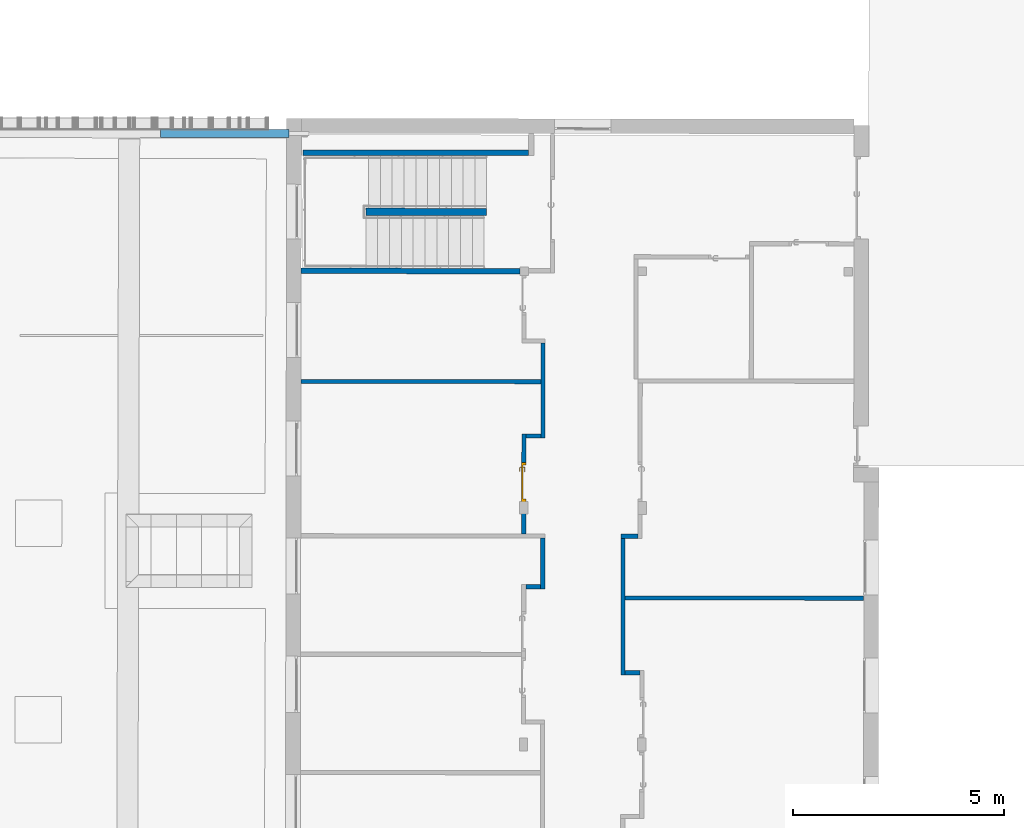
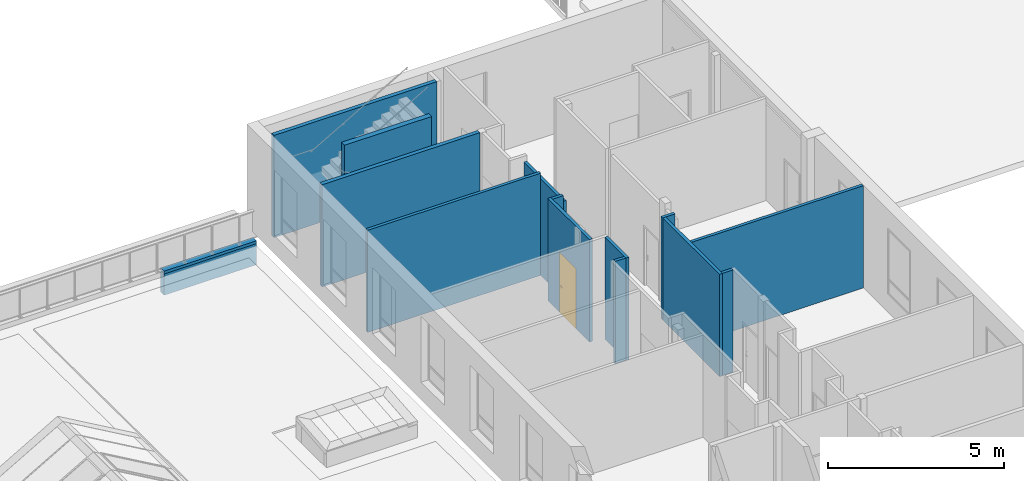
# One storey, part 85 of 101: 15 walls, 1 door, 1 opening.
"""IFC2X3 building model written with IfcOpenShell, lengths in metres."""

from ifc_helpers import new_model, entity, si_unit, converted_unit, derived_unit, direction, frame, frame_2d, origin, place, context, subcontext, project, spatial, polyline, rectangle, outline, extrude, clip, bounded_halfspace, faceted_brep, source, transform, mapped, material, material_list, layer, layer_set, layer_usage, type_object, type_shapes, element, fill, save


model = new_model("IFC2X3")

# Units and contexts
model_context = context("Model", 3, precision=1e-05, world=origin(), true_north=direction((6.123233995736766e-17, 1.0)))
body_context = subcontext(model_context, "Body", "Model", "MODEL_VIEW")
ifc_project = project(units=[si_unit("LENGTHUNIT", "METRE"), si_unit("AREAUNIT", "SQUARE_METRE"), converted_unit("PLANEANGLEUNIT", "DEGREE", entity("IfcPlaneAngleMeasure", 0.017453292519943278), si_unit("PLANEANGLEUNIT", "RADIAN"), dimensions=[0, 0, 0, 0, 0, 0, 0]), derived_unit("THERMALTRANSMITTANCEUNIT", [(si_unit("MASSUNIT", "GRAM", prefix="KILO"), 1), (si_unit("THERMODYNAMICTEMPERATUREUNIT", "KELVIN"), -1), (si_unit("TIMEUNIT", "SECOND"), -3)])], contexts=[model_context])

# Site, building, storey
site_placement = place(None, frame((1253.6752467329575, 2072.143113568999, 91.49999999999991), z_axis=(0.0, 0.0, 1.0), x_axis=(0.7237211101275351, 0.6900925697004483, 0.0)))
site = spatial("IfcSite", under=ifc_project, at=site_placement, Name="Surface", CompositionType="ELEMENT")
building_placement = place(site_placement, origin())
building = spatial("IfcBuilding", under=site, at=building_placement, CompositionType="ELEMENT")
storey_placement = place(building_placement, origin())
storey = spatial("IfcBuildingStorey", under=building, at=storey_placement, Name="0- Rdc", CompositionType="ELEMENT", Elevation=-5.764692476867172e-13)

# Walls
ifc_material_1 = material(Name="OMD_Béton blanc")
ifc_layer_1 = layer(ifc_material_1, 0.12999999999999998)
ifc_layer_set_1 = layer_set([ifc_layer_1], Name="Mur de base:MUR 13")
ifc_layer_usage_1 = layer_usage(ifc_layer_set_1, "AXIS2", "NEGATIVE", 0.06499999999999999)
wall_type_1 = type_object("IfcWallType", Name="Mur de base:MUR 13", PredefinedType="STANDARD", material=ifc_layer_set_1)
wall_1_placement = place(storey_placement, frame((195.20702705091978, -1.0797721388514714, 0.0), z_axis=(0.0, 0.0, 1.0), x_axis=(-0.7228702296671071, 0.6909838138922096, 0.0)))
element("IfcWallStandardCase", 1, at=wall_1_placement, inside=storey, type_object=wall_type_1, material=ifc_layer_usage_1, Name="Mur de base:MUR 13", ObjectType="Mur de base:MUR 13", context=body_context, shape_type="SweptSolid", body=[
    extrude(rectangle(XDim=5.340000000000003, YDim=0.1299999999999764, at=frame_2d((2.6700000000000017, -3.7470027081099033e-16), x_axis=(-1.0, 0.0))), origin(), (0.0, 0.0, 1.0), 3.5499999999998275),
])
ifc_layer_usage_2 = layer_usage(ifc_layer_set_1, "AXIS2", "NEGATIVE", 0.06499999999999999)
wall_2_placement = place(storey_placement, frame((193.12769832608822, -2.96561201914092, 0.0), z_axis=(0.0, 0.0, 1.0), x_axis=(-0.7228702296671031, 0.6909838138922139, 0.0)))
element("IfcWallStandardCase", 2, at=wall_2_placement, inside=storey, type_object=wall_type_1, material=ifc_layer_usage_2, Name="Mur de base:MUR 13", ObjectType="Mur de base:MUR 13", context=body_context, shape_type="SweptSolid", body=[
    extrude(outline(polyline([(-0.06374162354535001, -2.5871585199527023), (0.06625839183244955, -2.5871585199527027), (0.0637416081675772, 2.58719013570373), (-0.06625837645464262, 2.5871269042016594), (-0.06374162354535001, -2.5871585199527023)])), frame((2.587158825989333, 0.0, 0.0), z_axis=(0.0, 0.0, 1.0), x_axis=(0.00048639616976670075, 0.999999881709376, 0.0)), (0.0, 0.0, 1.0), 3.5499999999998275),
])
ifc_layer_2 = layer(ifc_material_1, 0.1)
ifc_layer_set_2 = layer_set([ifc_layer_2], Name="Mur de base:MUR 10")
ifc_layer_usage_3 = layer_usage(ifc_layer_set_2, "AXIS2", "NEGATIVE", 0.05)
wall_type_2 = type_object("IfcWallType", Name="Mur de base:MUR 10", PredefinedType="STANDARD", material=ifc_layer_set_2)
wall_3_placement = place(storey_placement, frame((192.35060446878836, -4.574532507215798, 0.0), z_axis=(0.0, 0.0, 1.0), x_axis=(-0.6909838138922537, -0.722870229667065, 0.0)))
element("IfcWallStandardCase", 3, at=wall_3_placement, inside=storey, type_object=wall_type_2, material=ifc_layer_usage_3, Name="Mur de base:MUR 10", ObjectType="Mur de base:MUR 10", context=body_context, shape_type="Clipping", body=[
    clip(extrude(rectangle(XDim=2.250000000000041, YDim=0.1000000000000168, at=frame_2d((1.1250000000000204, 1.0096090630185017e-15), x_axis=(-1.0, 0.0))), origin(), (0.0, 0.0, 1.0), 3.3499999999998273), bounded_halfspace(frame((0.0, -0.049999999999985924, 3.3499999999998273), z_axis=(0.0, 0.0, -1.0), x_axis=(1.0, 0.0, 0.0)), True, frame((0.0, -0.049999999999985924, 3.3499999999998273)), polyline([(0.0, 0.0), (2.2500000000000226, 0.0), (2.2500000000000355, 0.09999999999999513), (0.0, 0.09999999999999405), (0.0, 0.0)]))),
])
ifc_layer_usage_4 = layer_usage(ifc_layer_set_2, "AXIS2", "NEGATIVE", 0.05)
wall_4_placement = place(storey_placement, frame((187.57947844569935, -1.2796522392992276, 0.0), z_axis=(0.0, 0.0, 1.0), x_axis=(0.7228702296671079, -0.690983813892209, 0.0)))
element("IfcWallStandardCase", 4, at=wall_4_placement, inside=storey, type_object=wall_type_2, material=ifc_layer_usage_4, Name="Mur de base:MUR 10", ObjectType="Mur de base:MUR 10", context=body_context, shape_type="SweptSolid", body=[
    extrude(outline(polyline([(-0.04999999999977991, -2.8377947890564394), (0.0500000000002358, -2.83779478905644), (0.049999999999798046, 2.8377704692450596), (-0.050000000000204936, 2.8378191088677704), (-0.04999999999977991, -2.8377947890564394)])), frame((2.8378191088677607, 0.0, 0.0), z_axis=(0.0, 0.0, 1.0), x_axis=(0.0, 1.0, 0.0)), (0.0, 0.0, 1.0), 3.5499999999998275),
])
ifc_layer_usage_5 = layer_usage(ifc_layer_set_2, "AXIS2", "NEGATIVE", 0.05)
wall_5_placement = place(storey_placement, frame((190.79429656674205, -6.130297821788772, 0.0), z_axis=(0.0, 0.0, 1.0), x_axis=(-0.7228702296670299, 0.6909838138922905, 0.0)))
element("IfcWallStandardCase", 5, at=wall_5_placement, inside=storey, type_object=wall_type_2, material=ifc_layer_usage_5, Name="Mur de base:MUR 10", ObjectType="Mur de base:MUR 10", context=body_context, shape_type="SweptSolid", body=[
    extrude(rectangle(XDim=0.34999999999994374, YDim=0.10000000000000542, at=frame_2d((0.17499999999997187, -5.585809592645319e-16), x_axis=(-1.0, 0.0))), origin(), (0.0, 0.0, 1.0), 3.5499999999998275),
])

# Wall, opening, door
ifc_layer_usage_6 = layer_usage(ifc_layer_set_2, "AXIS2", "NEGATIVE", 0.05)
wall_6_placement = place(storey_placement, frame((190.5396976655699, -5.817760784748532, 0.0), z_axis=(0.0, 0.0, 1.0), x_axis=(-0.6909838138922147, -0.7228702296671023, 0.0)))
wall_6 = element("IfcWallStandardCase", 6, at=wall_6_placement, inside=storey, type_object=wall_type_2, material=ifc_layer_usage_6, Name="Mur de base:MUR 10", ObjectType="Mur de base:MUR 10", context=body_context, shape_type="SweptSolid", body=[
    extrude(rectangle(XDim=2.370000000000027, YDim=0.1000000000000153, at=frame_2d((1.1850000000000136, 2.1996293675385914e-15), x_axis=(-1.0, 0.0))), origin(), (0.0, 0.0, 1.0), 3.5499999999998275),
])
opening_placement = place(wall_6_placement, frame((1.6075000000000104, 0.05000000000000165, 0.0)))
opening = element("IfcOpeningElement", 7, at=opening_placement, cuts=wall_6, Name="OMD_Porte 1V tunnel:80x204:1", ObjectType="Opening", context=body_context, shape_type="SweptSolid", body=[
    extrude(rectangle(XDim=2.0850000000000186, YDim=0.9349999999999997, at=frame_2d((1.0425000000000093, 0.46749999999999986), x_axis=(1.0, 0.0))), frame((0.0, 0.0, 0.0), z_axis=(0.0, -1.0, 0.0), x_axis=(0.0, 0.0, 1.0)), (0.0, 0.0, 1.0), 0.09999999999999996),
])
ifc_material_2 = material(Name="Porte - Poignée")
ifc_material_3 = material(Name="OMD_Peinture mur")
ifc_material_4 = material(Name="OMD_Bois")
ifc_material_list = material_list([ifc_material_2, ifc_material_3, ifc_material_4])
door_style = type_object("IfcDoorStyle", Name="OMD_Porte 1V tunnel:80x204", ConstructionType="NOTDEFINED", OperationType="NOTDEFINED", ParameterTakesPrecedence=False, Sizeable=False, material=ifc_material_list)
shared_shape = source(origin(), body_context, "Body", "Brep", [
    faceted_brep([(0.21297470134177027, 0.03500000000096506, 1.0077804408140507), (0.20900000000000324, 0.03500000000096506, 1.0069999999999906), (0.208999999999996, 0.03500000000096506, 0.9929999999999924), (0.21297470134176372, 0.03500000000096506, 0.9922195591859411), (0.21702529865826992, 0.03500000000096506, 0.9922195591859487), (0.22100000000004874, 0.03500000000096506, 0.9930000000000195), (0.22100000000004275, 0.03500000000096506, 1.0069999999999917), (0.2170252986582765, 0.03500000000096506, 1.007780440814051), (0.22100000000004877, 0.05748520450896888, 0.9930000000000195), (0.22100000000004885, 0.057485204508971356, 1.0069999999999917), (0.21702529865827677, 0.059131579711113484, 1.007780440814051), (0.23083890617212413, 0.07294518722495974, 1.007780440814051), (0.2291610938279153, 0.07699578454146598, 1.0077804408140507), (0.21297470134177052, 0.060809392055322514, 1.0077804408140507), (0.3206847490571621, 0.0664673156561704, 1.0077804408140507), (0.32354895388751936, 0.06933152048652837, 1.0077804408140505), (0.31588468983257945, 0.07699578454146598, 1.0077804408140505), (0.31420687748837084, 0.07294518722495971, 1.0077804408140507), (0.20900000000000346, 0.06245576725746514, 1.0069999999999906), (0.20900000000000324, 0.06245576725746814, 0.9929999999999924), (0.21297470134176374, 0.06080939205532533, 0.9922195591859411), (0.22916109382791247, 0.07699578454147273, 0.9922195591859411), (0.23083890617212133, 0.07294518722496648, 0.9922195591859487), (0.21702529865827, 0.05913157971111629, 0.9922195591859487), (0.32354895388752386, 0.06933152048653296, 0.9922195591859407), (0.3206847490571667, 0.06646731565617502, 0.9922195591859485), (0.3142068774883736, 0.07294518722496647, 0.9922195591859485), (0.3158846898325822, 0.07699578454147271, 0.9922195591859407), (0.23248528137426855, 0.0689704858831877, 0.9930000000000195), (0.23248528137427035, 0.06897048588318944, 1.0069999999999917), (0.22751471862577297, 0.0809704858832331, 1.0069999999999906), (0.22751471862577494, 0.08097048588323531, 0.9929999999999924), (0.2725228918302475, 0.06897048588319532, 0.9930000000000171), (0.3125605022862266, 0.06897048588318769, 0.9930000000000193), (0.31256050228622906, 0.06897048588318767, 1.0069999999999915), (0.2725228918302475, 0.0689704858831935, 1.0069999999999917), (0.2725228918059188, 0.07512492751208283, 1.0078781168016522), (0.31753106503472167, 0.08097048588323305, 1.0069999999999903), (0.2776005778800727, 0.08097048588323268, 1.0069999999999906), (0.31753106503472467, 0.08097048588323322, 0.9929999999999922), (0.2674452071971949, 0.08097048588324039, 0.9929999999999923), (0.2725228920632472, 0.07512492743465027, 0.9921218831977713), (0.317874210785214, 0.06365677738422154, 0.9930000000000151), (0.32635949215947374, 0.07214205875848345, 0.99299999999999), (0.3263594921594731, 0.07214205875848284, 1.0069999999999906), (0.317874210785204, 0.06365677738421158, 1.0069999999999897)], [[[0, 1, 2, 3, 4, 5, 6, 7]], [[6, 5, 8, 9]], [[9, 10, 7, 6]], [[10, 11, 12, 13, 0, 7]], [[14, 15, 16, 17]], [[13, 18, 1, 0]], [[2, 1, 18, 19]], [[19, 20, 3, 2]], [[20, 21, 22, 23, 4, 3]], [[24, 25, 26, 27]], [[23, 8, 5, 4]], [[9, 8, 28, 29]], [[29, 11, 10, 9]], [[12, 30, 18, 13]], [[19, 18, 30, 31]], [[31, 21, 20, 19]], [[22, 28, 8, 23]], [[29, 28, 32, 33, 34, 35]], [[11, 35, 36]], [[16, 37, 38]], [[30, 12, 38]], [[38, 12, 36]], [[36, 35, 17]], [[17, 16, 36]], [[35, 11, 29]], [[34, 17, 35]], [[11, 36, 12]], [[38, 36, 16]], [[31, 30, 38, 37, 39, 40]], [[40, 41, 21]], [[41, 40, 27]], [[21, 31, 40]], [[39, 27, 40]], [[41, 32, 22]], [[22, 21, 41]], [[26, 32, 41]], [[28, 22, 32]], [[32, 26, 33]], [[26, 41, 27]], [[42, 25, 24, 43, 44, 15, 14, 45]], [[34, 33, 42, 45]], [[45, 14, 17, 34]], [[15, 44, 37, 16]], [[39, 37, 44, 43]], [[43, 24, 27, 39]], [[25, 42, 33, 26]]]),
    faceted_brep([(0.21297470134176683, -0.004999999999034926, 1.0077804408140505), (0.2170252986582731, -0.004999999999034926, 1.007780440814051), (0.2210000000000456, -0.004999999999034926, 1.006999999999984), (0.22100000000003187, -0.004999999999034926, 0.9930000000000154), (0.21702529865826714, -0.004999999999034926, 0.9922195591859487), (0.21297470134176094, -0.004999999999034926, 0.992219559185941), (0.20900000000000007, -0.004999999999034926, 0.992999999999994), (0.20900000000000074, -0.004999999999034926, 1.0069999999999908), (0.20900000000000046, -0.03265095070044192, 1.0069999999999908), (0.21297470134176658, -0.03100457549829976, 1.0077804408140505), (0.22902358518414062, -0.04705345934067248, 1.0077804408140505), (0.2307013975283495, -0.04300286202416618, 1.007780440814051), (0.21702529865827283, -0.02932676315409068, 1.007780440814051), (0.3235218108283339, -0.039389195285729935, 1.0077804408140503), (0.3206576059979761, -0.03652499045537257, 1.0077804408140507), (0.3141797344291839, -0.04300286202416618, 1.0077804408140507), (0.31585754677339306, -0.04705345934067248, 1.0077804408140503), (0.22100000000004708, -0.027680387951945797, 1.0069999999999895), (0.22100000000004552, -0.02768038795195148, 0.9930000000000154), (0.21702529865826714, -0.029326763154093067, 0.9922195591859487), (0.23070139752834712, -0.04300286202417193, 0.9922195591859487), (0.2290235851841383, -0.0470534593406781, 0.992219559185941), (0.21297470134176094, -0.031004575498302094, 0.992219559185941), (0.32065760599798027, -0.036524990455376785, 0.9922195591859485), (0.3235218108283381, -0.03938919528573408, 0.9922195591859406), (0.31585754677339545, -0.047053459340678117, 0.9922195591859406), (0.3141797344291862, -0.04300286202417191, 0.9922195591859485), (0.20899999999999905, -0.032650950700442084, 0.9929999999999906), (0.22737720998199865, -0.051028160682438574, 1.0069999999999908), (0.23234777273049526, -0.03902816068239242, 1.0069999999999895), (0.23234777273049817, -0.03902816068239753, 0.9930000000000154), (0.22737720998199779, -0.051028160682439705, 0.9929999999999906), (0.2673076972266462, -0.05102816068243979, 1.0069999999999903), (0.272440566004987, -0.0451828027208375, 1.0078781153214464), (0.3175039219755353, -0.05102816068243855, 1.0069999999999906), (0.27244056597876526, -0.039028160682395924, 1.0069999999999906), (0.3125333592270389, -0.03902816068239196, 1.0069999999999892), (0.31253335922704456, -0.03902816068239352, 0.9930000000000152), (0.27244056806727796, -0.03902816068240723, 0.9930000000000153), (0.27244056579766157, -0.04518280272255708, 0.9921218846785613), (0.3175039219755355, -0.051028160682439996, 0.9929999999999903), (0.27757344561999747, -0.051028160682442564, 0.9929999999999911), (0.3178470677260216, -0.03371445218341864, 1.0069999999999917), (0.3263323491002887, -0.04219973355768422, 1.0069999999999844), (0.3263323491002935, -0.04219973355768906, 0.9929999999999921), (0.31784706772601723, -0.033714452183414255, 0.9930000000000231)], [[[0, 1, 2, 3, 4, 5, 6, 7]], [[8, 9, 0, 7]], [[9, 10, 11, 12, 1, 0]], [[13, 14, 15, 16]], [[12, 17, 2, 1]], [[3, 2, 17, 18]], [[18, 19, 4, 3]], [[19, 20, 21, 22, 5, 4]], [[23, 24, 25, 26]], [[22, 27, 6, 5]], [[7, 6, 27, 8]], [[28, 10, 9, 8]], [[11, 29, 17, 12]], [[18, 17, 29, 30]], [[30, 20, 19, 18]], [[21, 31, 27, 22]], [[8, 27, 31, 28]], [[32, 33, 10]], [[33, 32, 16]], [[10, 28, 32]], [[34, 16, 32]], [[33, 35, 11]], [[11, 10, 33]], [[15, 35, 33]], [[29, 11, 35]], [[35, 15, 36]], [[15, 33, 16]], [[30, 29, 35, 36, 37, 38]], [[20, 38, 39]], [[25, 40, 41]], [[31, 21, 41]], [[41, 21, 39]], [[39, 38, 26]], [[26, 25, 39]], [[38, 20, 30]], [[37, 26, 38]], [[20, 39, 21]], [[41, 39, 25]], [[28, 31, 41, 40, 34, 32]], [[42, 14, 13, 43, 44, 24, 23, 45]], [[43, 13, 16, 34]], [[14, 42, 36, 15]], [[37, 36, 42, 45]], [[45, 23, 26, 37]], [[24, 44, 40, 25]], [[34, 40, 44, 43]]]),
    faceted_brep([(0.22535276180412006, 0.030000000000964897, 0.8660039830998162), (0.2350000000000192, 0.030000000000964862, 0.8700000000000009), (0.2350000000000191, 0.030000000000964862, 1.0800000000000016), (0.2253527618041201, 0.030000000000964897, 1.0839960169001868), (0.21500000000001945, 0.030000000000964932, 1.0853589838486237), (0.20464723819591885, 0.03000000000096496, 1.0839960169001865), (0.19500000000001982, 0.030000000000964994, 1.0800000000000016), (0.19500000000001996, 0.030000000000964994, 0.8700000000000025), (0.20464723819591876, 0.03000000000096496, 0.866003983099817), (0.21500000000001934, 0.030000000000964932, 0.8646410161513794), (0.22535276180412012, 0.0350000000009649, 1.0839960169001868), (0.2350000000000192, 0.03500000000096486, 1.0800000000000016), (0.23500000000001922, 0.03500000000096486, 0.8700000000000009), (0.22535276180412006, 0.0350000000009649, 0.8660039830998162), (0.21500000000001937, 0.03500000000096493, 0.8646410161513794), (0.20464723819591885, 0.03500000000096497, 0.866003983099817), (0.19500000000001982, 0.035000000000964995, 0.8700000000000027), (0.19500000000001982, 0.035000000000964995, 1.0800000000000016), (0.20464723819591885, 0.03500000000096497, 1.0839960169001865), (0.21500000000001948, 0.03500000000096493, 1.0853589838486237)], [[[0, 1, 2, 3, 4, 5, 6, 7, 8, 9]], [[10, 11, 12, 13, 14, 15, 16, 17, 18, 19]], [[11, 10, 3, 2]], [[3, 10, 19, 4]], [[19, 18, 5, 4]], [[18, 17, 6, 5]], [[7, 6, 17, 16]], [[16, 15, 8, 7]], [[8, 15, 14, 9]], [[14, 13, 0, 9]], [[13, 12, 1, 0]], [[2, 1, 12, 11]]]),
    faceted_brep([(0.22535276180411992, -0.004999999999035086, 0.8660039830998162), (0.2350000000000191, -0.004999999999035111, 0.8700000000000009), (0.23500000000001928, -0.004999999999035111, 1.0800000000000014), (0.22535276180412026, -0.004999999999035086, 1.0839960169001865), (0.2150000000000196, -0.004999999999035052, 1.0853589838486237), (0.20464723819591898, -0.0049999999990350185, 1.0839960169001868), (0.19500000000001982, -0.004999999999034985, 1.0800000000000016), (0.19500000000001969, -0.004999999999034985, 0.8700000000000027), (0.20464723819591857, -0.0049999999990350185, 0.8660039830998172), (0.21500000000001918, -0.004999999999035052, 0.8646410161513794), (0.22535276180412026, 0.0, 1.0839960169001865), (0.2350000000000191, 0.0, 1.0800000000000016), (0.2350000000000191, 0.0, 0.8700000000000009), (0.22535276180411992, 0.0, 0.8660039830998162), (0.21500000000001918, 0.0, 0.8646410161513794), (0.20464723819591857, 0.0, 0.8660039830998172), (0.19500000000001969, 0.0, 0.8700000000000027), (0.19500000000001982, 0.0, 1.0800000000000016), (0.20464723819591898, 0.0, 1.0839960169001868), (0.2150000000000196, 0.0, 1.0853589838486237)], [[[0, 1, 2, 3, 4, 5, 6, 7, 8, 9]], [[10, 11, 12, 13, 14, 15, 16, 17, 18, 19]], [[16, 15, 8, 7]], [[8, 15, 14, 9]], [[14, 13, 0, 9]], [[13, 12, 1, 0]], [[2, 1, 12, 11]], [[11, 10, 3, 2]], [[3, 10, 19, 4]], [[19, 18, 5, 4]], [[18, 17, 6, 5]], [[7, 6, 17, 16]]]),
    faceted_brep([(0.14500000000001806, 0.030000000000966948, 0.0), (0.9900000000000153, 0.030000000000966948, 0.0), (0.9900000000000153, 0.0, 0.0), (0.14500000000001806, 0.0, 0.0), (0.14500000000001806, 0.030000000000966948, 2.04), (0.14500000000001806, 0.0, 2.04), (0.9900000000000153, 0.0, 2.04), (0.9900000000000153, 0.030000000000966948, 2.04)], [[[0, 1, 2, 3]], [[4, 0, 3, 5]], [[5, 3, 2, 6]], [[6, 2, 1, 7]], [[7, 1, 0, 4]], [[4, 5, 6, 7]]]),
    faceted_brep([(0.10000000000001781, 0.0, 0.0), (0.10000000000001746, 0.10000000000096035, 0.0), (0.16000000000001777, 0.10000000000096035, 0.0), (0.16000000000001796, 0.03000000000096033, 0.0), (0.145000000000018, 0.03000000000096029, 0.0), (0.14500000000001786, 0.0, 0.0), (0.145000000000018, 0.0, 2.04), (0.9900000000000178, 0.0, 2.0400000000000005), (0.9900000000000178, 0.0, 0.0), (1.0350000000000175, 0.0, 0.0), (1.0350000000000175, 0.0, 2.085), (0.10000000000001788, 0.0, 2.085), (0.14500000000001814, 0.030000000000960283, 2.04), (0.16000000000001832, 0.03000000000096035, 2.0249999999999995), (0.9750000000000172, 0.03000000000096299, 2.0249999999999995), (0.9750000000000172, 0.03000000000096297, 0.0), (0.9900000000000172, 0.03000000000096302, 0.0), (0.9900000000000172, 0.03000000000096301, 2.0399999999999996), (0.16000000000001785, 0.10000000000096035, 2.0249999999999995), (0.1000000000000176, 0.10000000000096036, 2.085), (1.0350000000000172, 0.10000000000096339, 2.085), (1.0350000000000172, 0.10000000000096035, 0.0), (0.9750000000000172, 0.10000000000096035, 0.0), (0.9750000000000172, 0.10000000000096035, 2.025)], [[[0, 1, 2, 3, 4, 5]], [[5, 6, 7, 8, 9, 10, 11, 0]], [[4, 12, 6, 5]], [[3, 13, 14, 15, 16, 17, 12, 4]], [[2, 18, 13, 3]], [[1, 19, 20, 21, 22, 23, 18, 2]], [[0, 11, 19, 1]], [[10, 9, 21, 20]], [[9, 8, 16, 15, 22, 21]], [[17, 16, 8, 7]], [[23, 22, 15, 14]], [[12, 17, 7, 6]], [[18, 23, 14, 13]], [[11, 10, 20, 19]]]),
])
type_shapes(door_style, [shared_shape])
door_placement = place(opening_placement, frame((-1.035, -0.10000000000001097, 0.0)))
door = element("IfcDoor", 8, at=door_placement, inside=storey, type_object=door_style, material=ifc_material_list, Name="OMD_Porte 1V tunnel:80x204", ObjectType="OMD_Porte 1V tunnel:80x204", OverallHeight=2.0850000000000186, OverallWidth=0.9350000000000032, context=body_context, shape_type="MappedRepresentation", body=[
    mapped(shared_shape, transform((0.0, 0.0, 0.0), scale=1.0)),
])
fill(opening, door)

# Walls
ifc_layer_usage_7 = layer_usage(ifc_layer_set_2, "AXIS2", "NEGATIVE", 0.05)
wall_7_placement = place(storey_placement, frame((189.15825924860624, -7.914192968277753, 0.0), z_axis=(0.0, 0.0, 1.0), x_axis=(-0.6909838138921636, -0.7228702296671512, 0.0)))
element("IfcWallStandardCase", 9, at=wall_7_placement, inside=storey, type_object=wall_type_2, material=ifc_layer_usage_7, Name="Mur de base:MUR 10", ObjectType="Mur de base:MUR 10", context=body_context, shape_type="SweptSolid", body=[
    extrude(rectangle(XDim=1.199999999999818, YDim=0.10000000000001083, at=frame_2d((0.599999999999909, 2.643718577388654e-15), x_axis=(-1.0, 0.0))), origin(), (0.0, 0.0, 1.0), 3.5499999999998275),
])
ifc_layer_usage_8 = layer_usage(ifc_layer_set_2, "AXIS2", "NEGATIVE", 0.05)
wall_8_placement = place(storey_placement, frame((190.530118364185, -9.156369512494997, 0.0), z_axis=(0.0, 0.0, 1.0), x_axis=(0.7228702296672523, -0.6909838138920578, 0.0)))
element("IfcWallStandardCase", 10, at=wall_8_placement, inside=storey, type_object=wall_type_2, material=ifc_layer_usage_8, Name="Mur de base:MUR 10", ObjectType="Mur de base:MUR 10", context=body_context, shape_type="SweptSolid", body=[
    extrude(rectangle(XDim=0.4000000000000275, YDim=0.1000000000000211, at=frame_2d((0.20000000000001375, 1.5161483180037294e-15), x_axis=(-1.0, 0.0))), origin(), (0.0, 0.0, 1.0), 3.5499999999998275),
])
ifc_layer_usage_9 = layer_usage(ifc_layer_set_2, "AXIS2", "NEGATIVE", 0.05)
wall_9_placement = place(storey_placement, frame((190.53171268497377, -9.227062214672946, 0.0), z_axis=(0.0, 0.0, 1.0), x_axis=(-0.6909838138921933, -0.7228702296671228, 0.0)))
element("IfcWallStandardCase", 11, at=wall_9_placement, inside=storey, type_object=wall_type_2, material=ifc_layer_usage_9, Name="Mur de base:MUR 10", ObjectType="Mur de base:MUR 10", context=body_context, shape_type="SweptSolid", body=[
    extrude(rectangle(XDim=3.22999999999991, YDim=0.10000000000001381, at=frame_2d((1.614999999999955, 4.753142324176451e-16), x_axis=(-1.0, 0.0))), origin(), (0.0, 0.0, 1.0), 3.5499999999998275),
])
ifc_layer_usage_10 = layer_usage(ifc_layer_set_2, "AXIS2", "NEGATIVE", 0.05)
wall_10_placement = place(storey_placement, frame((193.6705571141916, -14.178007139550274, 0.0), z_axis=(0.0, 0.0, 1.0), x_axis=(-0.7228702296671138, 0.6909838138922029, 0.0)))
element("IfcWallStandardCase", 12, at=wall_10_placement, inside=storey, type_object=wall_type_2, material=ifc_layer_usage_10, Name="Mur de base:MUR 10", ObjectType="Mur de base:MUR 10", context=body_context, shape_type="SweptSolid", body=[
    extrude(rectangle(XDim=5.639999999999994, YDim=0.10000000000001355, at=frame_2d((2.819999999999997, -3.587408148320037e-15), x_axis=(-1.0, 0.0))), origin(), (0.0, 0.0, 1.0), 3.5499999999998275),
])
ifc_layer_usage_11 = layer_usage(ifc_layer_set_2, "AXIS2", "NEGATIVE", 0.05)
wall_11_placement = place(storey_placement, frame((188.6235322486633, -11.802183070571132, 0.0), z_axis=(0.0, 0.0, 1.0), x_axis=(-0.7228702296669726, 0.6909838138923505, 0.0)))
element("IfcWallStandardCase", 13, at=wall_11_placement, inside=storey, type_object=wall_type_2, material=ifc_layer_usage_11, Name="Mur de base:MUR 10", ObjectType="Mur de base:MUR 10", context=body_context, shape_type="SweptSolid", body=[
    extrude(rectangle(XDim=0.3499999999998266, YDim=0.10000000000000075, at=frame_2d((0.1749999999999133, -2.7755575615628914e-17), x_axis=(-1.0, 0.0))), origin(), (0.0, 0.0, 1.0), 3.5499999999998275),
])
ifc_layer_usage_12 = layer_usage(ifc_layer_set_2, "AXIS2", "NEGATIVE", 0.05)
wall_12_placement = place(storey_placement, frame((188.327484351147, -8.710944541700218, 0.0), z_axis=(0.0, 0.0, 1.0), x_axis=(-0.7228702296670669, 0.6909838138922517, 0.0)))
element("IfcWallStandardCase", 14, at=wall_12_placement, inside=storey, type_object=wall_type_2, material=ifc_layer_usage_12, Name="Mur de base:MUR 10", ObjectType="Mur de base:MUR 10", context=body_context, shape_type="SweptSolid", body=[
    extrude(rectangle(XDim=0.3500000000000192, YDim=0.10000000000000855, at=frame_2d((0.1750000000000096, 6.938893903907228e-16), x_axis=(-1.0, 0.0))), origin(), (0.0, 0.0, 1.0), 3.5499999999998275),
])
ifc_layer_3 = layer(ifc_material_1, 0.17)
ifc_layer_set_3 = layer_set([ifc_layer_3], Name="Mur de base:MUR 17")
ifc_layer_usage_13 = layer_usage(ifc_layer_set_3, "AXIS2", "NEGATIVE", 0.085)
wall_type_3 = type_object("IfcWallType", Name="Mur de base:MUR 17", PredefinedType="STANDARD", material=ifc_layer_set_3)
wall_13_placement = place(storey_placement, frame((193.52400818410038, -1.407716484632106, 0.0), z_axis=(0.0, 0.0, 1.0), x_axis=(-0.722870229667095, 0.6909838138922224, 0.0)))
element("IfcWallStandardCase", 15, at=wall_13_placement, inside=storey, type_object=wall_type_3, material=ifc_layer_usage_13, Name="Mur de base:MUR 17", ObjectType="Mur de base:MUR 17", context=body_context, shape_type="SweptSolid", body=[
    extrude(rectangle(XDim=2.8499999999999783, YDim=0.17000000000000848, at=frame_2d((1.4249999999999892, -1.9637069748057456e-15), x_axis=(-1.0, 0.0))), origin(), (0.0, 0.0, 1.0), 3.5499999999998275),
])
ifc_material_5 = material(Name="Béton - Béton coulé sur place")
ifc_layer_4 = layer(ifc_material_5, 0.2)
ifc_layer_set_4 = layer_set([ifc_layer_4], Name="Mur de base:MUR 20")
ifc_layer_usage_14 = layer_usage(ifc_layer_set_4, "AXIS2", "NEGATIVE", 0.1)
wall_type_4 = type_object("IfcWallType", Name="Mur de base:MUR 20", PredefinedType="STANDARD", material=ifc_layer_set_4)
wall_14_placement = place(storey_placement, frame((189.2243555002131, 5.261520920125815, -1.0718824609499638), z_axis=(0.0, 0.0, 1.0), x_axis=(0.7228702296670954, -0.6909838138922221, 0.0)))
element("IfcWallStandardCase", 16, at=wall_14_placement, inside=storey, type_object=wall_type_4, material=ifc_layer_usage_14, Name="Mur de base:MUR 20", ObjectType="Mur de base:MUR 20", context=body_context, shape_type="SweptSolid", body=[
    extrude(outline(polyline([(-0.09926222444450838, -1.5168443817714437), (0.1007377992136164, -1.5168443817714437), (0.09926220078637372, 1.5168930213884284), (-0.10073777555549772, 1.5167957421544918), (-0.09926222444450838, -1.5168443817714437)])), frame((1.5168445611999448, 0.0, 0.0), z_axis=(0.0, 0.0, 1.0), x_axis=(0.0004863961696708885, 0.9999998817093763, 0.0)), (0.0, 0.0, 1.0), 0.7369018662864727),
])
ifc_layer_usage_15 = layer_usage(ifc_layer_set_4, "AXIS2", "NEGATIVE", 0.1)
wall_15_placement = place(storey_placement, frame((191.41735421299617, 3.165257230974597, -0.334980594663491), z_axis=(0.0, 0.0, 1.0), x_axis=(-0.7228702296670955, 0.6909838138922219, 0.0)))
element("IfcWallStandardCase", 17, at=wall_15_placement, inside=storey, type_object=wall_type_4, material=ifc_layer_usage_15, Name="Mur de base:MUR 20", ObjectType="Mur de base:MUR 20", context=body_context, shape_type="SweptSolid", body=[
    extrude(outline(polyline([(-0.10000000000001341, -1.5168445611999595), (0.09999999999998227, -1.5168445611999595), (0.10000000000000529, 1.5167959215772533), (-0.09999999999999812, 1.5168932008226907), (-0.10000000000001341, -1.5168445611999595)])), frame((1.5168932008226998, 0.0, 0.0), z_axis=(0.0, 0.0, 1.0), x_axis=(0.0, 1.0, 0.0)), (0.0, 0.0, 1.0), 0.09724636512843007),
])

save(model, "model.ifc")
